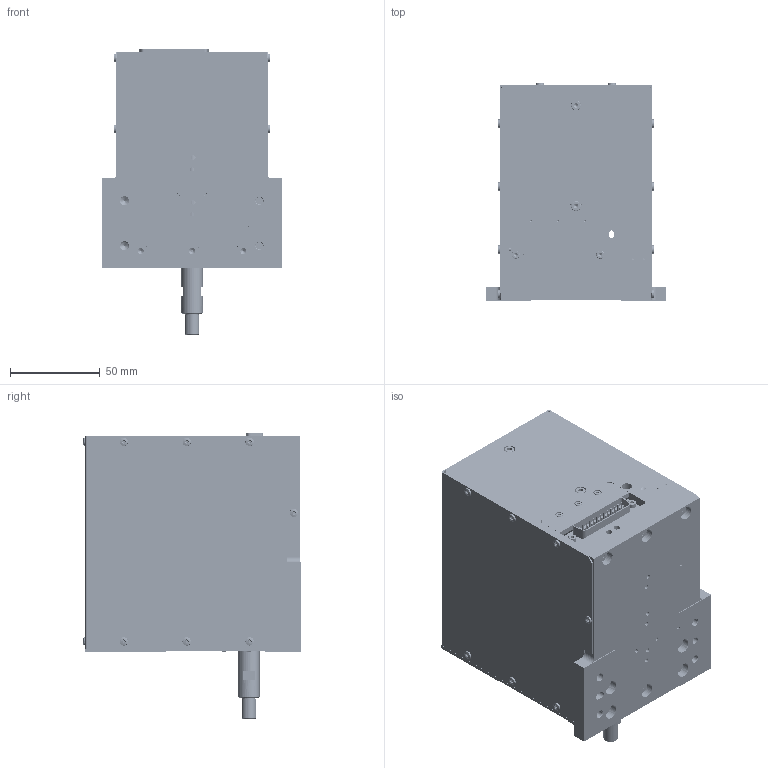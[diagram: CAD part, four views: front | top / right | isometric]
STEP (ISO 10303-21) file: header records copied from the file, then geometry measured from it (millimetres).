
FILE_DESCRIPTION((''),'2;1');
FILE_NAME('D:\SMAC-CAD\LA\LA300\LAL300-25\ASSY\LAL300-030-7(3D)_A.stp','2014-05-21T15:56:55',('ToanVu'),(''),'Autodesk Inventor 2008','Autodesk Inventor 2008','');
FILE_SCHEMA(('AUTOMOTIVE_DESIGN { 1 0 10303 214 1 1 1 1 }'));
Length unit declared in the file: millimetre
Products named in the file (14): LAL300-030-7(3D)_A; SUB ASSY - BODY-25mm(3D); 110008-05_A; FRONT BODY 110007-01_A; BACK PLATE 11522-01_B; BUSHING RETAINER; CONNECTOR MOUNT; DB-25P; 21528-36_A; 23054-00 (B); Broached Socket Head Cap Screw - Metric M3x0.5 x 20; Broached Socket Head Cap Screw - Metric M2x0.4 x 3; Broached Socket Head Cap Screw - Metric M2.5x0.45 x 25; JIS B 1111 M2
Assembly tree (40 placements, depth 3):
  LAL300-030-7(3D)_A
    SUB ASSY - BODY-25mm(3D)
      110008-05_A
      FRONT BODY 110007-01_A
      BACK PLATE 11522-01_B
      BUSHING RETAINER
      CONNECTOR MOUNT
      DB-25P
    21528-36_A
    23054-00 (B)
    Broached Socket Head Cap Screw - Metric M3x0.5 x 20  x4
    Broached Socket Head Cap Screw - Metric M2x0.4 x 3  x3
    Broached Socket Head Cap Screw - Metric M2.5x0.45 x 25  x2
    JIS B 1111 M2  x22
Bounding box: 100 x 121.12 x 159.3 mm (x, y, z)
Volume: 261249.8 mm3; surface area: 173707.7 mm2
Topology: 42 solids, 42 shells, 2351 faces, 5413 edges, 3255 vertices
Faces by surface type: cone 986, plane 670, bspline 430, cylinder 256, torus 9
Full cylindrical faces by diameter (mm): 0.7 x17, 0.9 x66, 1.567 x1, 1.6 x5, 1.75 x22, 2 x7, 2.2 x25, 2.5 x6, 3 x8, 3.2 x4, 3.5 x2, 3.8 x3, 4 x1, 4.5 x7, 5 x2, 5.5 x4, 5.8 x2, 6.4 x4, 6.5 x2, 7.3 x1, 8 x2, 12 x1, 12.5 x1, 13 x2, 18.979 x1, 21 x1, 21.5 x1, 33 x1, 33.5 x1
Entity records: 45315 total; most frequent: CARTESIAN_POINT 12744, DIRECTION 6846, ORIENTED_EDGE 4716, EDGE_LOOP 3442, AXIS2_PLACEMENT_3D 3120, EDGE_CURVE 2358, VERTEX_POINT 2091, FACE_OUTER_BOUND 1736
